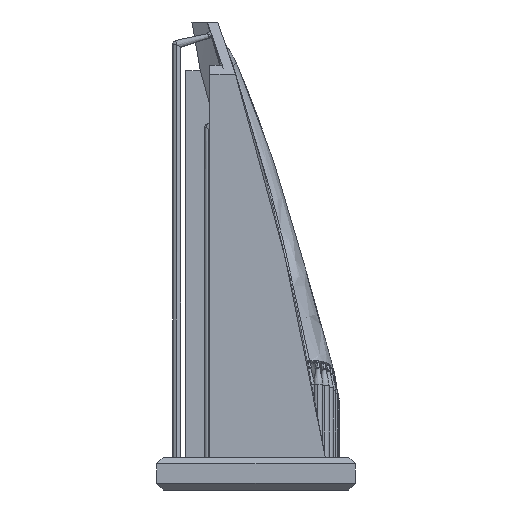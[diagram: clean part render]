
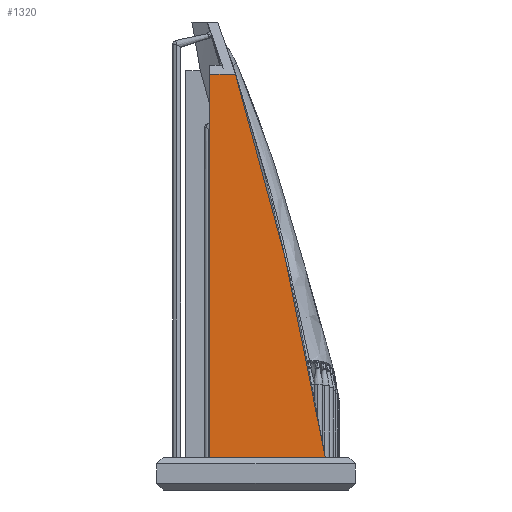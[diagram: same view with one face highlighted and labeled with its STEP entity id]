
A CAD part, front view. The second image highlights one B-rep face of the part: STEP entity #1320.
In plain terms, the highlighted planar face has unit normal (0, -1, 0).
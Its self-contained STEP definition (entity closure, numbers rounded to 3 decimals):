
#1320=ADVANCED_FACE('',(#2532),#21570,.T.);
#2532=FACE_OUTER_BOUND('',#4115,.T.);
#4115=EDGE_LOOP('',(#10030,#10031,#10032,#10033));
#10030=ORIENTED_EDGE('',*,*,#14140,.F.);
#10031=ORIENTED_EDGE('',*,*,#14130,.F.);
#10032=ORIENTED_EDGE('',*,*,#14145,.T.);
#10033=ORIENTED_EDGE('',*,*,#14148,.F.);
#14130=EDGE_CURVE('',#20453,#20454,#18304,.T.);
#14140=EDGE_CURVE('',#20454,#20464,#18314,.T.);
#14145=EDGE_CURVE('',#20453,#20465,#18319,.T.);
#14148=EDGE_CURVE('',#20464,#20465,#18322,.T.);
#18304=B_SPLINE_CURVE_WITH_KNOTS('',1,(#80021,#80022),.UNSPECIFIED.,.F.,
 .F.,(2,2),(-7.465,-5.89),.UNSPECIFIED.);
#18314=B_SPLINE_CURVE_WITH_KNOTS('',3,(#80279,#80280,#80281,#80282,#80283,
#80284,#80285),.UNSPECIFIED.,.F.,.F.,(4,3,4),(4.013,13.407,
28.075),.UNSPECIFIED.);
#18319=B_SPLINE_CURVE_WITH_KNOTS('',3,(#80301,#80302,#80303,#80304),
 .UNSPECIFIED.,.F.,.F.,(4,4),(0.,23.895),.UNSPECIFIED.);
#18322=B_SPLINE_CURVE_WITH_KNOTS('',1,(#80309,#80310),.UNSPECIFIED.,.F.,
 .F.,(2,2),(1.063,5.145),.UNSPECIFIED.);
#20453=VERTEX_POINT('',#74096);
#20454=VERTEX_POINT('',#74097);
#20464=VERTEX_POINT('',#74107);
#20465=VERTEX_POINT('',#74108);
#21570=PLANE('',#22701);
#22701=AXIS2_PLACEMENT_3D('',#64396,#23128,$);
#23128=DIRECTION('',(0.,-1.,0.));
#64396=CARTESIAN_POINT('',(-0.954,-30.45,-1.));
#74096=CARTESIAN_POINT('',(-8.505,-30.45,25.418));
#74097=CARTESIAN_POINT('',(-6.93,-30.45,25.418));
#74107=CARTESIAN_POINT('',(-1.44,-30.45,2.));
#74108=CARTESIAN_POINT('',(-8.505,-30.45,2.));
#80021=CARTESIAN_POINT('',(-8.505,-30.45,25.418));
#80022=CARTESIAN_POINT('',(-6.93,-30.45,25.418));
#80279=CARTESIAN_POINT('',(-6.93,-30.45,25.418));
#80280=CARTESIAN_POINT('',(-5.98,-30.45,22.433));
#80281=CARTESIAN_POINT('',(-5.16,-30.45,19.405));
#80282=CARTESIAN_POINT('',(-4.414,-30.45,16.363));
#80283=CARTESIAN_POINT('',(-3.247,-30.45,11.611));
#80284=CARTESIAN_POINT('',(-2.257,-30.45,6.82));
#80285=CARTESIAN_POINT('',(-1.44,-30.45,2.));
#80301=CARTESIAN_POINT('',(-8.505,-30.45,25.418));
#80302=CARTESIAN_POINT('',(-8.505,-30.45,17.612));
#80303=CARTESIAN_POINT('',(-8.505,-30.45,9.806));
#80304=CARTESIAN_POINT('',(-8.505,-30.45,2.));
#80309=CARTESIAN_POINT('',(-1.44,-30.45,2.));
#80310=CARTESIAN_POINT('',(-8.505,-30.45,2.));
